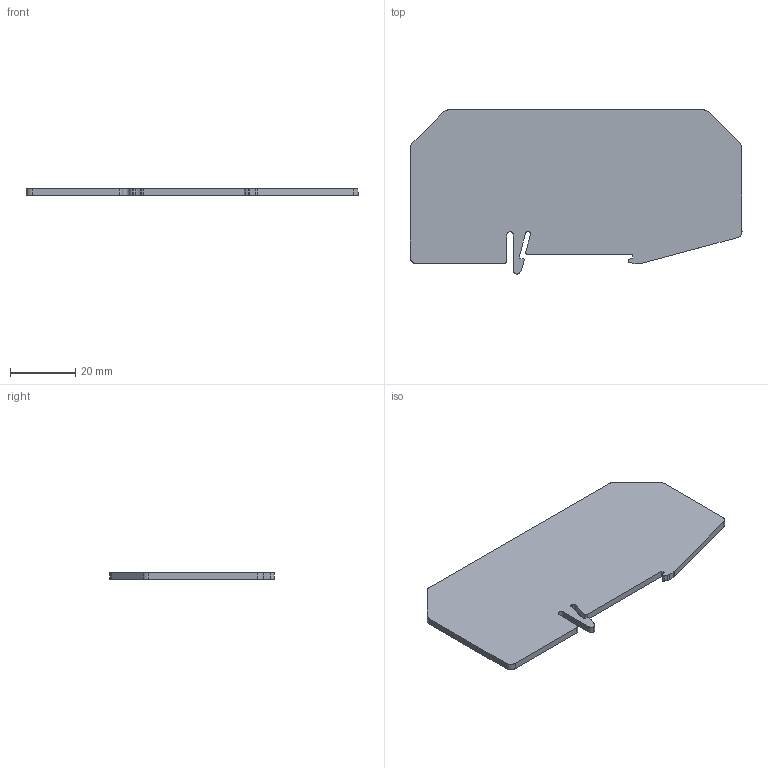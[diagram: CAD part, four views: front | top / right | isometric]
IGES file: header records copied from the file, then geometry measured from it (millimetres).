
Global section: file name: 3206238_atp_qttcb_select.igs; native system: OneSpace Designer 3D IGES; preprocessor: 12.01C  26-Mar-2004; date: 20041004.102533; units: millimetre
Bounding box: 101.95 x 50.4 x 2 mm (x, y, z)
Surface area: 9534.3 mm2 (no closed solid volume)
Topology: 0 solids, 0 shells, 40 faces, 328 edges, 328 vertices
Faces by surface type: bspline 40
